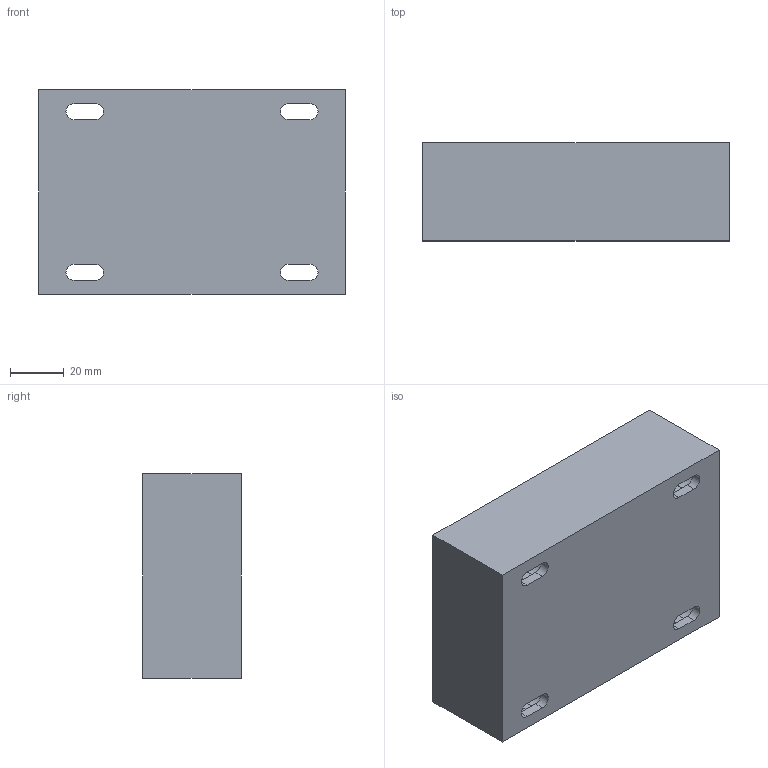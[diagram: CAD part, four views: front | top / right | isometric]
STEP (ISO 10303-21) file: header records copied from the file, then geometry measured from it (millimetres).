
FILE_DESCRIPTION(/* description */ (''),/* implementation_level */ '2;1');
FILE_NAME(/* name */ '/Users/davidflorian/Library/Mobile Documents/com~apple~CloudDocs/Vanderbilt/Papers/OTTO/Supplemental Material/3D-Printable-Components-STEP-Files/96-Well-Plate-Holder.step',/* time_stamp */ '2020-06-30T23:02:18-05:00',/* author */ (''),/* organization */ (''),/* preprocessor_version */ 'ST-DEVELOPER v18.1',/* originating_system */ 'Autodesk Translation Framework v9.3.0.1241',/* authorisation */ '');
FILE_SCHEMA (('AUTOMOTIVE_DESIGN { 1 0 10303 214 3 1 1 }'));
Length unit declared in the file: millimetre
Products named in the file (1): 96 well cooler block 2
Bounding box: 114.3 x 36.6 x 76.2 mm (x, y, z)
Volume: 198209.8 mm3; surface area: 89146.7 mm2
Topology: 1 solids, 1 shells, 248 faces, 482 edges, 320 vertices
Faces by surface type: plane 127, cylinder 121
Full cylindrical faces by diameter (mm): 7.3 x80
Entity records: 6485 total; most frequent: DIRECTION 1242, CARTESIAN_POINT 1051, ORIENTED_EDGE 964, AXIS2_PLACEMENT_3D 511, EDGE_CURVE 482, EDGE_LOOP 340, VERTEX_POINT 320, CIRCLE 262
